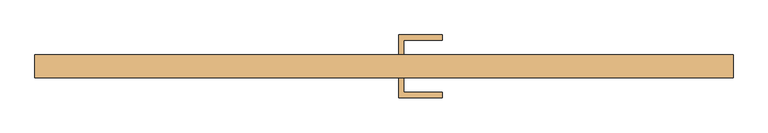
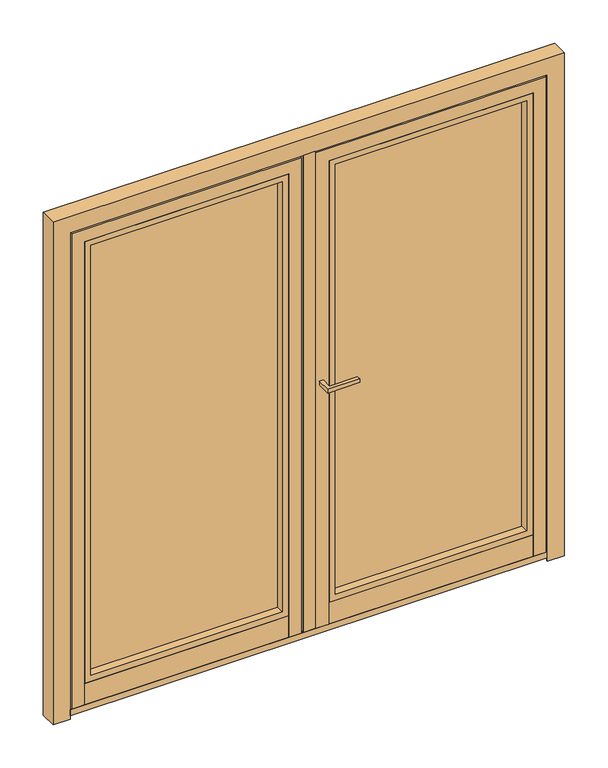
"""IFC4 building model written with IfcOpenShell, lengths in millimetres: door geometry, Reynaers_CS 77_Door_Plinth_Outward Opening_Double Vent : Reynaers_CS 77_Door_Outward_ Opening_Double Vent."""

from ifc_helpers import new_model, si_unit, frame, origin, place, context, project, spatial, polyline, outline, extrude, faceted_brep, source, transform, mapped, element, save


def door_9ae7bd01(model_context):
    return source(origin(), model_context, "Body", "SolidModel", [
        extrude(outline(polyline([(42.5, 80.0), (42.5, 137.5), (170.0, 137.5), (170.0, 122.5), (57.5, 122.5), (57.5, 80.0), (42.5, 80.0)])), frame((0.0, 0.0, 1062.5), z_axis=(0.0, 0.0, 1.0), x_axis=(1.0, 0.0, 0.0)), (0.0, 0.0, 1.0), 15.0),
        extrude(outline(polyline([(42.5, 12.0), (57.5, 12.0), (57.5, -30.5), (170.0, -30.5), (170.0, -45.5), (42.5, -45.5), (42.5, 12.0)])), frame((0.0, 0.0, 1062.5), z_axis=(0.0, 0.0, 1.0), x_axis=(1.0, 0.0, 0.0)), (0.0, 0.0, 1.0), 15.0),
        faceted_brep([(-972.0, 76.2, 14.0), (-972.0, 80.0, 14.0), (-870.0, 80.0, 14.0), (-870.0, 76.2, 14.0), (-972.0, 76.2, 2072.0), (-972.0, 80.0, 2072.0), (-3.0, 80.0, 2072.0), (-3.0, 80.0, 14.0), (-105.0, 80.0, 14.0), (-105.0, 80.0, 1970.0), (-870.0, 80.0, 1970.0), (-870.0, 72.2, 1970.0), (-870.0, 72.2, 40.0), (-870.0, 76.2, 40.0), (-3.0, 76.2, 2072.0), (-961.0, 76.2, 40.0), (-961.0, 76.2, 2061.0), (-14.0, 76.2, 2061.0), (-14.0, 76.2, 40.0), (-105.0, 76.2, 40.0), (-105.0, 76.2, 14.0), (-3.0, 76.2, 14.0), (-105.0, 72.2, 1970.0), (-105.0, 72.2, 40.0), (-14.0, 20.8, 2061.0), (-14.0, 20.8, 40.0), (-961.0, 20.8, 2061.0), (-961.0, 20.8, 40.0), (-946.0, 20.8, 40.0), (-946.0, 20.8, 2046.0), (-29.0, 20.8, 2046.0), (-29.0, 20.8, 40.0), (-29.0, 12.0, 40.0), (-80.0, 12.0, 40.0), (-80.0, 72.2, 40.0), (-80.0, 72.2, 1995.0), (-895.0, 72.2, 1995.0), (-895.0, 72.2, 40.0), (-80.0, 12.0, 1995.0), (-895.0, 12.0, 1995.0), (-29.0, 12.0, 2046.0), (-946.0, 12.0, 2046.0), (-946.0, 12.0, 40.0), (-895.0, 12.0, 40.0)], [[[0, 1, 2, 3]], [[1, 0, 4, 5]], [[2, 1, 5, 6, 7, 8, 9, 10]], [[10, 11, 12, 13, 3, 2]], [[14, 4, 0, 3, 13, 15, 16, 17, 18, 19, 20, 21]], [[8, 7, 21, 20]], [[14, 21, 7, 6]], [[22, 9, 8, 20, 19, 23]], [[17, 24, 25, 18]], [[24, 26, 27, 28, 29, 30, 31, 25]], [[19, 18, 25, 31, 32, 33, 34, 23]], [[11, 22, 23, 34, 35, 36, 37, 12]], [[38, 35, 34, 33]], [[39, 38, 33, 32, 40, 41, 42, 43]], [[30, 40, 32, 31]], [[26, 16, 15, 27]], [[15, 13, 12, 37, 43, 42, 28, 27]], [[36, 39, 43, 37]], [[41, 29, 28, 42]], [[16, 26, 24, 17]], [[5, 4, 14, 6]], [[11, 10, 9, 22]], [[39, 36, 35, 38]], [[29, 41, 40, 30]]]),
        extrude(outline(polyline([(132.0, 81.0), (132.0, 894.0), (1994.0, 894.0), (1994.0, 81.0), (132.0, 81.0)]), holes=[polyline([(1970.0, 105.0), (1970.0, 870.0), (156.0, 870.0), (156.0, 105.0), (1970.0, 105.0)])]), frame((0.0, 12.0, 0.0), z_axis=(0.0, 1.0, 0.0), x_axis=(0.0, 0.0, 1.0)), (0.0, 0.0, 1.0), 33.0),
        extrude(outline(polyline([(1994.0, -894.0), (132.0, -894.0), (132.0, -81.0), (1994.0, -81.0), (1994.0, -894.0)]), holes=[polyline([(1970.0, -105.0), (156.0, -105.0), (156.0, -870.0), (1970.0, -870.0), (1970.0, -105.0)])]), frame((0.0, 12.0, 0.0), z_axis=(0.0, 1.0, 0.0), x_axis=(0.0, 0.0, 1.0)), (0.0, 0.0, 1.0), 33.0),
        extrude(outline(polyline([(889.0, 72.0), (889.0, 48.0), (86.0, 48.0), (86.0, 72.0), (889.0, 72.0)])), frame((0.0, 0.0, 137.0), z_axis=(0.0, 0.0, 1.0), x_axis=(1.0, 0.0, 0.0)), (0.0, 0.0, 1.0), 1852.0),
        extrude(outline(polyline([(-86.0, 48.0), (-889.0, 48.0), (-889.0, 72.0), (-86.0, 72.0), (-86.0, 48.0)])), frame((0.0, 0.0, 137.0), z_axis=(0.0, 0.0, 1.0), x_axis=(1.0, 0.0, 0.0)), (0.0, 0.0, 1.0), 1852.0),
        extrude(outline(polyline([(27.0, 12.0), (-19.0, 12.0), (-19.0, 15.8), (-10.2, 15.8), (-10.2, 71.2), (12.0, 71.2), (12.0, 15.8), (27.0, 15.8), (27.0, 12.0)])), frame((0.0, 0.0, 40.0), z_axis=(0.0, 0.0, 1.0), x_axis=(1.0, 0.0, 0.0)), (0.0, 0.0, 1.0), 2012.0),
        faceted_brep([(3.0, 76.2, 14.0), (3.0, 80.0, 14.0), (105.0, 80.0, 14.0), (105.0, 76.2, 14.0), (3.0, 76.2, 2072.0), (3.0, 80.0, 2072.0), (972.0, 80.0, 2072.0), (972.0, 80.0, 14.0), (870.0, 80.0, 14.0), (870.0, 80.0, 1970.0), (105.0, 80.0, 1970.0), (105.0, 72.2, 1970.0), (105.0, 72.2, 40.0), (105.0, 76.2, 40.0), (972.0, 76.2, 2072.0), (18.0, 76.2, 40.0), (18.0, 76.2, 2057.0), (957.0, 76.2, 2057.0), (957.0, 76.2, 40.0), (870.0, 76.2, 40.0), (870.0, 76.2, 14.0), (972.0, 76.2, 14.0), (870.0, 72.2, 40.0), (870.0, 72.2, 1970.0), (80.0, 12.0, 1995.0), (895.0, 12.0, 1995.0), (895.0, 12.0, 40.0), (946.0, 12.0, 40.0), (946.0, 12.0, 2046.0), (29.0, 12.0, 2046.0), (29.0, 12.0, 40.0), (80.0, 12.0, 40.0), (895.0, 72.2, 1995.0), (895.0, 72.2, 40.0), (957.0, 20.8, 40.0), (946.0, 20.8, 40.0), (946.0, 20.8, 2046.0), (29.0, 20.8, 2046.0), (29.0, 20.8, 40.0), (80.0, 72.2, 40.0), (18.0, 20.8, 40.0), (80.0, 72.2, 1995.0), (957.0, 20.8, 2057.0), (18.0, 20.8, 2057.0)], [[[0, 1, 2, 3]], [[1, 0, 4, 5]], [[2, 1, 5, 6, 7, 8, 9, 10]], [[2, 10, 11, 12, 13, 3]], [[14, 4, 0, 3, 13, 15, 16, 17, 18, 19, 20, 21]], [[8, 7, 21, 20]], [[14, 21, 7, 6]], [[9, 8, 20, 19, 22, 23]], [[24, 25, 26, 27, 28, 29, 30, 31]], [[25, 32, 33, 26]], [[19, 18, 34, 35, 27, 26, 33, 22]], [[36, 28, 27, 35]], [[29, 37, 38, 30]], [[15, 13, 12, 39, 31, 30, 38, 40]], [[41, 24, 31, 39]], [[37, 36, 35, 34, 42, 43, 40, 38]], [[17, 42, 34, 18]], [[43, 16, 15, 40]], [[11, 23, 22, 33, 32, 41, 39, 12]], [[29, 28, 36, 37]], [[43, 42, 17, 16]], [[4, 14, 6, 5]], [[10, 9, 23, 11]], [[25, 24, 41, 32]]]),
        faceted_brep([(-978.0, 71.2, 0.0), (-967.0, 71.2, 0.0), (-967.0, 15.8, 0.0), (-952.0, 15.8, 0.0), (-952.0, 12.0, 0.0), (-1020.0, 12.0, 0.0), (-1020.0, 80.0, 0.0), (-978.0, 80.0, 0.0), (-978.0, 71.2, 2078.0), (978.0, 71.2, 2078.0), (978.0, 71.2, 0.0), (967.0, 71.2, 0.0), (967.0, 71.2, 2067.0), (-967.0, 71.2, 2067.0), (-967.0, 15.8, 2067.0), (967.0, 15.8, 2067.0), (967.0, 15.8, 0.0), (952.0, 15.8, 0.0), (952.0, 15.8, 2052.0), (-952.0, 15.8, 2052.0), (-952.0, 12.0, 2052.0), (952.0, 12.0, 2052.0), (952.0, 12.0, 0.0), (1020.0, 12.0, 0.0), (1020.0, 12.0, 2120.0), (-1020.0, 12.0, 2120.0), (-1020.0, 80.0, 2120.0), (1020.0, 80.0, 2120.0), (1020.0, 80.0, 0.0), (978.0, 80.0, 0.0), (978.0, 80.0, 2078.0), (-978.0, 80.0, 2078.0)], [[[0, 1, 2, 3, 4, 5, 6, 7]], [[1, 0, 8, 9, 10, 11, 12, 13]], [[2, 1, 13, 14]], [[3, 2, 14, 15, 16, 17, 18, 19]], [[4, 3, 19, 20]], [[5, 4, 20, 21, 22, 23, 24, 25]], [[6, 5, 25, 26]], [[7, 6, 26, 27, 28, 29, 30, 31]], [[0, 7, 31, 8]], [[10, 29, 28, 23, 22, 17, 16, 11]], [[9, 30, 29, 10]], [[27, 24, 23, 28]], [[21, 18, 17, 22]], [[15, 12, 11, 16]], [[14, 13, 12, 15]], [[20, 19, 18, 21]], [[26, 25, 24, 27]], [[8, 31, 30, 9]]]),
        extrude(outline(polyline([(952.0, 15.8), (952.0, 12.0), (-952.0, 12.0), (-952.0, 15.8), (952.0, 15.8)])), frame((0.0, 0.0, 14.0), z_axis=(0.0, 0.0, 1.0), x_axis=(1.0, 0.0, 0.0)), (0.0, 0.0, 1.0), 26.0),
        extrude(outline(polyline([(952.0, 44.8), (952.0, 34.8), (-952.0, 34.8), (-952.0, 44.8), (952.0, 44.8)])), frame((0.0, 0.0, 1.0), z_axis=(0.0, 0.0, 1.0), x_axis=(1.0, 0.0, 0.0)), (0.0, 0.0, 1.0), 39.0),
        faceted_brep([(-80.0, 72.2, 130.5), (-80.0, 12.0, 130.5), (-80.0, 12.0, 40.0), (-80.0, 72.2, 40.0), (-895.0, 12.0, 40.0), (-895.0, 12.0, 130.5), (-895.0, 72.2, 130.5), (-895.0, 72.2, 40.0), (-105.0, 72.2, 156.0), (-105.0, 80.0, 156.0), (-870.0, 80.0, 156.0), (-870.0, 72.2, 156.0), (-105.0, 72.2, 130.5), (-870.0, 72.2, 130.5), (-870.0, 72.2, 40.0), (-870.0, 76.2, 40.0), (-105.0, 76.2, 40.0), (-105.0, 72.2, 40.0), (-105.0, 76.2, 14.0), (-870.0, 76.2, 14.0), (-105.0, 80.0, 14.0), (-870.0, 80.0, 14.0)], [[[0, 1, 2, 3]], [[4, 5, 6, 7]], [[8, 9, 10, 11]], [[12, 8, 11, 13]], [[1, 0, 12, 13, 6, 5]], [[2, 1, 5, 4]], [[2, 4, 7, 14, 15, 16, 17, 3]], [[18, 16, 15, 19]], [[20, 18, 19, 21]], [[9, 20, 21, 10]], [[17, 12, 0, 3]], [[12, 17, 16, 18, 20, 9, 8]], [[13, 14, 7, 6]], [[14, 13, 11, 10, 21, 19, 15]]]),
        faceted_brep([(895.0, 72.2, 131.0), (895.0, 12.0, 131.0), (895.0, 12.0, 40.0), (895.0, 72.2, 40.0), (80.0, 12.0, 40.0), (80.0, 12.0, 131.0), (80.0, 72.2, 131.0), (80.0, 72.2, 40.0), (870.0, 72.2, 156.0), (870.0, 80.0, 156.0), (105.0, 80.0, 156.0), (105.0, 72.2, 156.0), (870.0, 72.2, 131.0), (105.0, 72.2, 131.0), (105.0, 72.2, 40.0), (105.0, 76.2, 40.0), (870.0, 76.2, 40.0), (870.0, 72.2, 40.0), (870.0, 76.2, 14.0), (105.0, 76.2, 14.0), (870.0, 80.0, 14.0), (105.0, 80.0, 14.0)], [[[0, 1, 2, 3]], [[4, 5, 6, 7]], [[8, 9, 10, 11]], [[12, 8, 11, 13]], [[1, 0, 12, 13, 6, 5]], [[2, 1, 5, 4]], [[2, 4, 7, 14, 15, 16, 17, 3]], [[18, 16, 15, 19]], [[20, 18, 19, 21]], [[9, 20, 21, 10]], [[17, 12, 0, 3]], [[12, 17, 16, 18, 20, 9, 8]], [[13, 14, 7, 6]], [[14, 13, 11, 10, 21, 19, 15]]]),
    ])


if __name__ == "__main__":
    model = new_model("IFC4")
    model_context = context("Model", 3, world=origin())
    ifc_project = project(units=[si_unit("LENGTHUNIT", "METRE", prefix="MILLI")], contexts=[model_context])
    site = spatial("IfcSite", under=ifc_project)
    building = spatial("IfcBuilding", under=site)
    placement = place(None, origin())
    door_shape = door_9ae7bd01(model_context)
    element("IfcDoor", 1, ObjectType="Reynaers_CS 77_Door_Plinth_Outward Opening_Double Vent : Reynaers_CS 77_Door_Outward_ Opening_Double Vent", at=placement, inside=building, context=model_context, shape_type="MappedRepresentation", body=[
        mapped(door_shape, transform((0.0, 0.0, 0.0), x_axis=(1.0, 0.0, 0.0), y_axis=(0.0, 1.0, 0.0), z_axis=(0.0, 0.0, 1.0))),
    ])
    save(model, "model.ifc")
